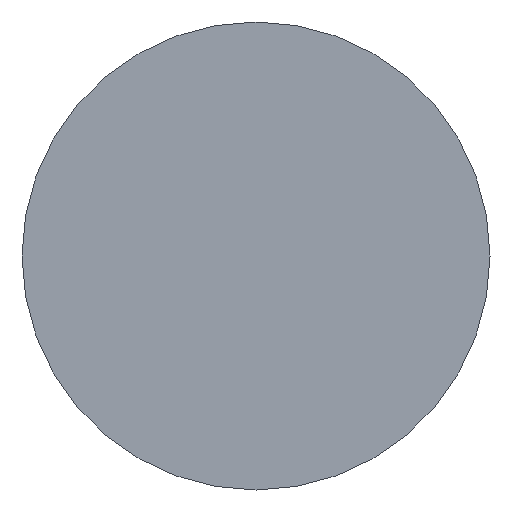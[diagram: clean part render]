
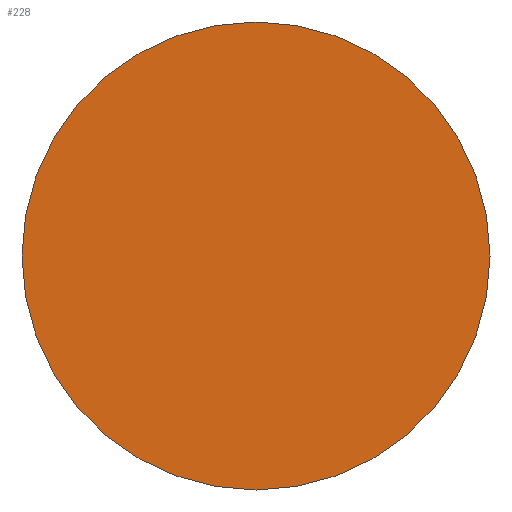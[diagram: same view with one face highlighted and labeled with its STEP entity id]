
A CAD part, front view. The second image highlights one B-rep face of the part: STEP entity #228.
In plain terms, the highlighted planar face has unit normal (0, -1, 0).
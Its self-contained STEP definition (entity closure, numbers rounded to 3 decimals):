
#29=CARTESIAN_POINT('',(0.,0.,0.));
#30=DIRECTION('',(0.,1.,0.));
#31=DIRECTION('',(1.,0.,0.));
#32=AXIS2_PLACEMENT_3D('',#29,#30,#31);
#38=CARTESIAN_POINT('',(0.,0.,0.));
#39=DIRECTION('',(0.,-1.,0.));
#40=DIRECTION('',(1.,0.,0.));
#41=AXIS2_PLACEMENT_3D('',#38,#39,#40);
#127=CARTESIAN_POINT('',(0.75,0.,0.));
#129=VERTEX_POINT('',#127);
#141=CARTESIAN_POINT('',(-0.75,0.,0.));
#143=VERTEX_POINT('',#141);
#219=CARTESIAN_POINT('',(0.,0.,0.));
#220=DIRECTION('',(0.,1.,0.));
#221=DIRECTION('',(1.,0.,0.));
#222=AXIS2_PLACEMENT_3D('',#219,#220,#221);
#223=PLANE('',#222);
#224=ORIENTED_EDGE('',*,*,#212,.F.);
#225=ORIENTED_EDGE('',*,*,#201,.T.);
#226=EDGE_LOOP('',(#224,#225));
#227=FACE_OUTER_BOUND('',#226,.F.);
#228=ADVANCED_FACE('',(#227),#223,.F.);
#33=CIRCLE('',#32,0.75);
#42=CIRCLE('',#41,0.75);
#201=EDGE_CURVE('',#129,#143,#33,.T.);
#212=EDGE_CURVE('',#129,#143,#42,.T.);
